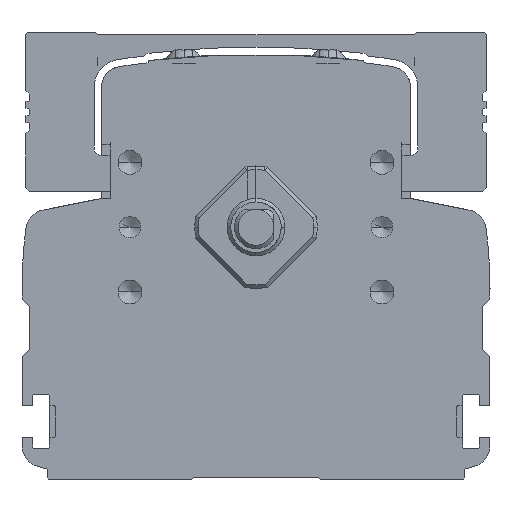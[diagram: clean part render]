
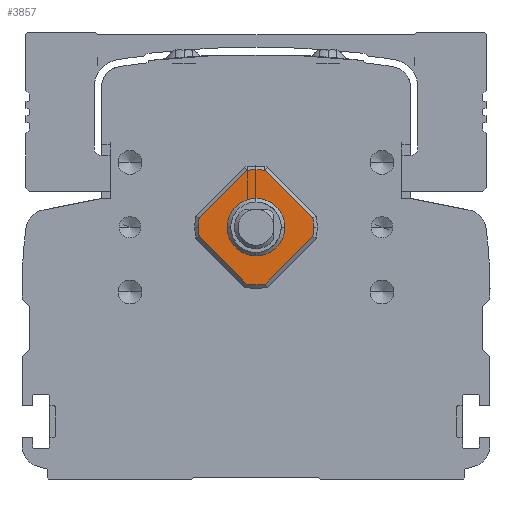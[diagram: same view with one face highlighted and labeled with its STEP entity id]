
A CAD part, front view. The second image highlights one B-rep face of the part: STEP entity #3857.
In plain terms, the highlighted planar face has unit normal (0, -1, 0).
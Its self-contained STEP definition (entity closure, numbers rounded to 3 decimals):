
#3857=ADVANCED_FACE('',(#8297,#8298),#8299,.T.);
#8297=FACE_OUTER_BOUND('',#14281,.T.);
#8298=FACE_BOUND('',#14282,.T.);
#8299=PLANE('',#14283);
#14281=EDGE_LOOP('',(#24634,#24635,#24636,#24637,#24638,#24639,#24640,#24641,#24642,#24643));
#14282=EDGE_LOOP('',(#24644,#24645));
#14283=AXIS2_PLACEMENT_3D('',#24646,#24647,#24648);
#24634=ORIENTED_EDGE('',*,*,#32299,.T.);
#24635=ORIENTED_EDGE('',*,*,#33188,.T.);
#24636=ORIENTED_EDGE('',*,*,#35916,.T.);
#24637=ORIENTED_EDGE('',*,*,#35917,.T.);
#24638=ORIENTED_EDGE('',*,*,#35578,.T.);
#24639=ORIENTED_EDGE('',*,*,#35348,.T.);
#24640=ORIENTED_EDGE('',*,*,#34916,.T.);
#24641=ORIENTED_EDGE('',*,*,#34363,.T.);
#24642=ORIENTED_EDGE('',*,*,#35451,.T.);
#24643=ORIENTED_EDGE('',*,*,#33978,.T.);
#24644=ORIENTED_EDGE('',*,*,#35918,.T.);
#24645=ORIENTED_EDGE('',*,*,#32336,.T.);
#24646=CARTESIAN_POINT('',(300.,8.,9.899));
#24647=DIRECTION('',(0.,-1.0,0.));
#24648=DIRECTION('',(1.0,0.,0.));
#32299=EDGE_CURVE('',#38538,#38536,#38539,.F.);
#32336=EDGE_CURVE('',#38599,#38596,#38600,.F.);
#33188=EDGE_CURVE('',#38536,#40044,#40046,.T.);
#33978=EDGE_CURVE('',#41340,#38538,#41341,.T.);
#34363=EDGE_CURVE('',#41913,#41911,#41914,.F.);
#34916=EDGE_CURVE('',#42745,#41913,#42746,.T.);
#35348=EDGE_CURVE('',#43367,#42745,#43369,.F.);
#35451=EDGE_CURVE('',#41911,#41340,#43509,.F.);
#35578=EDGE_CURVE('',#43682,#43367,#43683,.T.);
#35916=EDGE_CURVE('',#40044,#44147,#44148,.F.);
#35917=EDGE_CURVE('',#44147,#43682,#44149,.F.);
#35918=EDGE_CURVE('',#38596,#38599,#44150,.F.);
#38536=VERTEX_POINT('',#47564);
#38538=VERTEX_POINT('',#47569);
#38539=CIRCLE('',#47570,8.0);
#38596=VERTEX_POINT('',#47645);
#38599=VERTEX_POINT('',#47649);
#38600=CIRCLE('',#47650,4.);
#40044=VERTEX_POINT('',#49761);
#40046=LINE('',#49766,#49767);
#41340=VERTEX_POINT('',#51565);
#41341=LINE('',#51566,#51567);
#41911=VERTEX_POINT('',#52358);
#41913=VERTEX_POINT('',#52361);
#41914=CIRCLE('',#52362,8.0);
#42745=VERTEX_POINT('',#53573);
#42746=LINE('',#53574,#53575);
#43367=VERTEX_POINT('',#54442);
#43369=CIRCLE('',#54447,8.0);
#43509=CIRCLE('',#54648,8.0);
#43682=VERTEX_POINT('',#54893);
#43683=LINE('',#54894,#54895);
#44147=VERTEX_POINT('',#55582);
#44148=CIRCLE('',#55583,8.0);
#44149=CIRCLE('',#55584,8.0);
#44150=CIRCLE('',#55585,4.);
#47564=CARTESIAN_POINT('',(301.298,8.,-7.894));
#47569=CARTESIAN_POINT('',(298.702,8.,-7.894));
#47570=AXIS2_PLACEMENT_3D('',#59800,#59801,#59802);
#47645=CARTESIAN_POINT('',(304.,8.,0.));
#47649=CARTESIAN_POINT('',(296.,8.,0.));
#47650=AXIS2_PLACEMENT_3D('',#59852,#59853,#59854);
#49761=CARTESIAN_POINT('',(307.894,8.,-1.298));
#49766=CARTESIAN_POINT('',(301.298,8.,-7.894));
#49767=VECTOR('',#60897,1000.0);
#51565=CARTESIAN_POINT('',(292.106,8.,-1.298));
#51566=CARTESIAN_POINT('',(292.106,8.,-1.298));
#51567=VECTOR('',#61906,1000.0);
#52358=CARTESIAN_POINT('',(292.,8.,0.));
#52361=CARTESIAN_POINT('',(292.106,8.,1.298));
#52362=AXIS2_PLACEMENT_3D('',#62347,#62348,#62349);
#53573=CARTESIAN_POINT('',(298.702,8.,7.894));
#53574=CARTESIAN_POINT('',(298.702,8.,7.894));
#53575=VECTOR('',#63005,1000.0);
#54442=CARTESIAN_POINT('',(301.298,8.,7.894));
#54447=AXIS2_PLACEMENT_3D('',#63480,#63481,#63482);
#54648=AXIS2_PLACEMENT_3D('',#63586,#63587,#63588);
#54893=CARTESIAN_POINT('',(307.894,8.,1.298));
#54894=CARTESIAN_POINT('',(307.894,8.,1.298));
#54895=VECTOR('',#63721,1000.0);
#55582=CARTESIAN_POINT('',(308.,8.,0.));
#55583=AXIS2_PLACEMENT_3D('',#64088,#64089,#64090);
#55584=AXIS2_PLACEMENT_3D('',#64091,#64092,#64093);
#55585=AXIS2_PLACEMENT_3D('',#64094,#64095,#64096);
#59800=CARTESIAN_POINT('',(300.,8.,0.));
#59801=DIRECTION('',(0.,1.0,0.));
#59802=DIRECTION('',(-1.0,0.,0.));
#59852=CARTESIAN_POINT('',(300.,8.,0.));
#59853=DIRECTION('',(0.,-1.0,0.));
#59854=DIRECTION('',(1.0,0.,0.));
#60897=DIRECTION('',(0.707,0.,0.707));
#61906=DIRECTION('',(0.707,0.,-0.707));
#62347=CARTESIAN_POINT('',(300.,8.,0.));
#62348=DIRECTION('',(0.,1.0,0.));
#62349=DIRECTION('',(-1.0,0.,0.));
#63005=DIRECTION('',(-0.707,0.,-0.707));
#63480=CARTESIAN_POINT('',(300.,8.,0.));
#63481=DIRECTION('',(0.,1.0,0.));
#63482=DIRECTION('',(-1.0,0.,0.));
#63586=CARTESIAN_POINT('',(300.,8.,0.));
#63587=DIRECTION('',(0.,1.0,0.));
#63588=DIRECTION('',(-1.0,0.,0.));
#63721=DIRECTION('',(-0.707,0.,0.707));
#64088=CARTESIAN_POINT('',(300.,8.,0.));
#64089=DIRECTION('',(0.,1.0,0.));
#64090=DIRECTION('',(-1.0,0.,0.));
#64091=CARTESIAN_POINT('',(300.,8.,0.));
#64092=DIRECTION('',(0.,1.0,0.));
#64093=DIRECTION('',(-1.0,0.,0.));
#64094=CARTESIAN_POINT('',(300.,8.,0.));
#64095=DIRECTION('',(0.,-1.0,0.));
#64096=DIRECTION('',(1.0,0.,0.));
